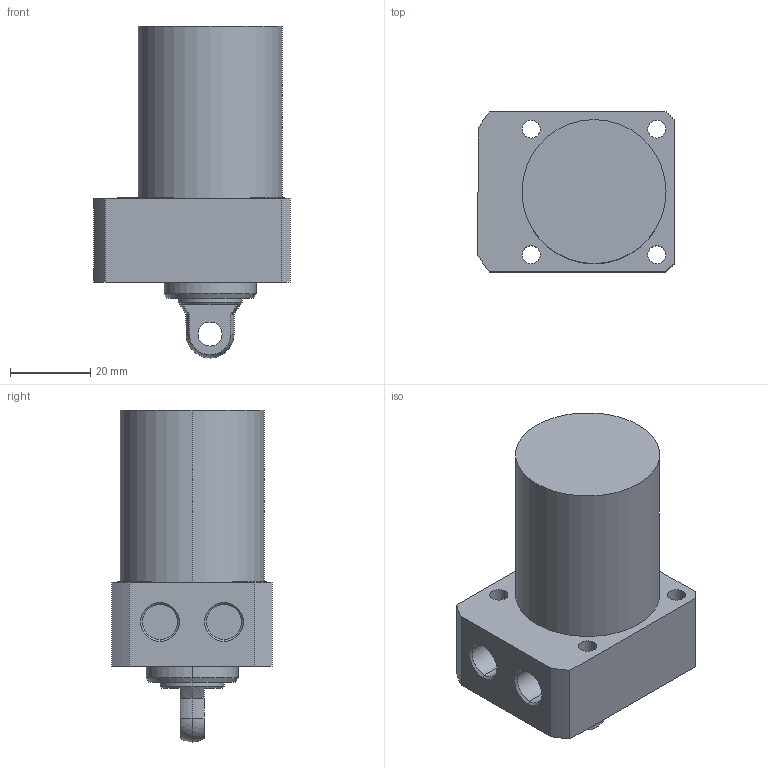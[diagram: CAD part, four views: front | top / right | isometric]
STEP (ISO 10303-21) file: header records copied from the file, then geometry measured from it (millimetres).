
FILE_DESCRIPTION (( 'STEP AP203' ), '1' );
FILE_NAME ('CLLR036-CP-035.STEP', '2017-05-12T02:08:15', ( '' ), ( '' ), 'SwSTEP 2.0', 'SolidWorks 2015', '' );
FILE_SCHEMA (( 'CONFIG_CONTROL_DESIGN' ));
Length unit declared in the file: millimetre
Products named in the file (1): CLLR036-CP-035
Bounding box: 49 x 40 x 83 mm (x, y, z)
Volume: 84313.8 mm3; surface area: 14887 mm2
Topology: 1 solids, 1 shells, 57 faces, 135 edges, 87 vertices
Faces by surface type: cylinder 29, plane 18, cone 8, sphere 2
Entity records: 1770 total; most frequent: DIRECTION 319, CARTESIAN_POINT 292, ORIENTED_EDGE 270, EDGE_CURVE 135, AXIS2_PLACEMENT_3D 130, VERTEX_POINT 87, EDGE_LOOP 74, CIRCLE 72
